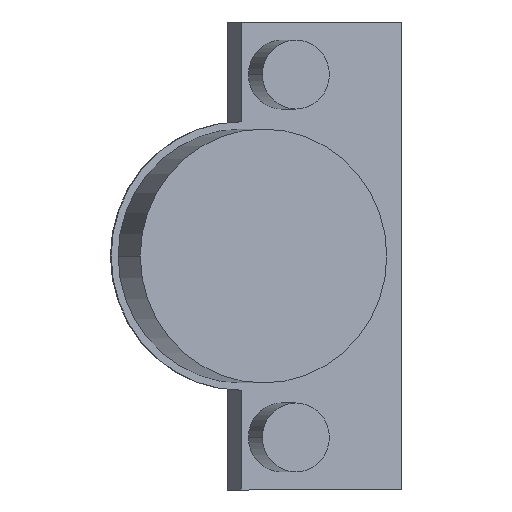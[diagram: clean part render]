
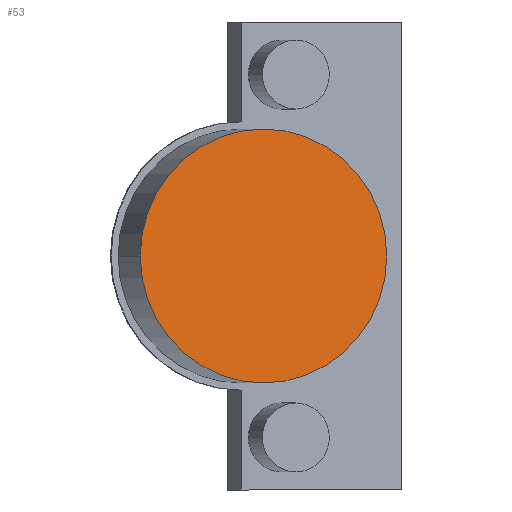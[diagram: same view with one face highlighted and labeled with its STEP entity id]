
A CAD part, front view. The second image highlights one B-rep face of the part: STEP entity #53.
In plain terms, the highlighted planar face has unit normal (0.242, -0.97, 0).
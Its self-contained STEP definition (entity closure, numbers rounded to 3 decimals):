
#53 = ADVANCED_FACE ( 'NONE', ( #1115 ), #328, .T. ) ;
#75 = VERTEX_POINT ( 'NONE', #373 ) ;
#90 = VERTEX_POINT ( 'NONE', #388 ) ;
#328 = PLANE ( 'NONE',  #1608 ) ;
#331 = CARTESIAN_POINT ( 'NONE',  ( 10.048, -12.226, 0. ) ) ;
#337 = DIRECTION ( 'NONE',  ( 0.242, -0.97, 0. ) ) ;
#338 = DIRECTION ( 'NONE',  ( 0.97, 0.242, 0. ) ) ;
#373 = CARTESIAN_POINT ( 'NONE',  ( 27.028, -7.992, 0. ) ) ;
#388 = CARTESIAN_POINT ( 'NONE',  ( -6.932, -16.459, 0. ) ) ;
#489 = CARTESIAN_POINT ( 'NONE',  ( 10.048, -12.226, 0. ) ) ;
#491 = DIRECTION ( 'NONE',  ( 0.242, -0.97, 0. ) ) ;
#492 = DIRECTION ( 'NONE',  ( 0.97, 0.242, 0. ) ) ;
#709 = CARTESIAN_POINT ( 'NONE',  ( 10.048, -12.226, 0. ) ) ;
#713 = DIRECTION ( 'NONE',  ( 0.242, -0.97, 0. ) ) ;
#714 = DIRECTION ( 'NONE',  ( 0.97, 0.242, 0. ) ) ;
#834 = EDGE_LOOP ( 'NONE', ( #973, #1025 ) ) ;
#973 = ORIENTED_EDGE ( 'NONE', *, *, #1437, .T. ) ;
#1025 = ORIENTED_EDGE ( 'NONE', *, *, #1540, .T. ) ;
#1115 = FACE_OUTER_BOUND ( 'NONE', #834, .T. ) ;
#1211 = CIRCLE ( 'NONE', #1455, 17.5 ) ;
#1394 = CIRCLE ( 'NONE', #1638, 17.5 ) ;
#1437 = EDGE_CURVE ( 'NONE', #90, #75, #1211, .T. ) ;
#1455 = AXIS2_PLACEMENT_3D ( 'NONE', #489, #491, #492 ) ;
#1540 = EDGE_CURVE ( 'NONE', #75, #90, #1394, .T. ) ;
#1608 = AXIS2_PLACEMENT_3D ( 'NONE', #331, #337, #338 ) ;
#1638 = AXIS2_PLACEMENT_3D ( 'NONE', #709, #713, #714 ) ;
